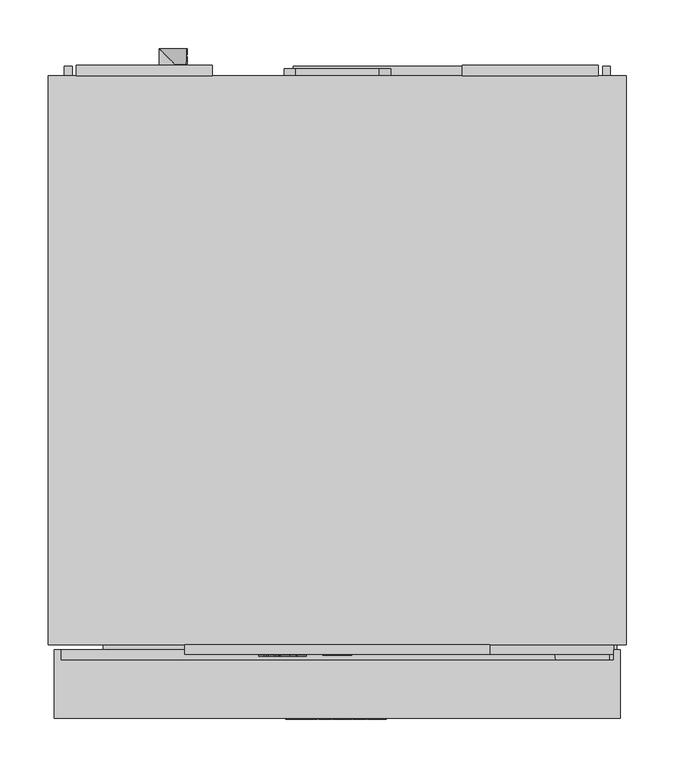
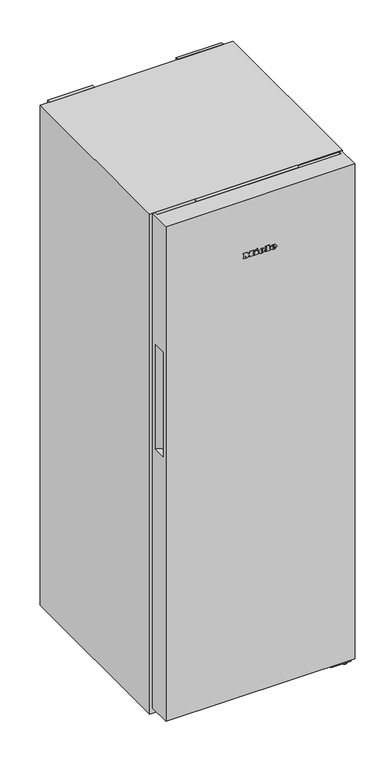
"""IFC4 building model written with IfcOpenShell, lengths in millimetres: proxy geometry, 12430260_EU1_FN4342D_WS : 37434244_EU1_12430260_FN4342D_WS."""

from ifc_helpers import new_model, si_unit, point, frame, frame_2d, origin, origin_with_axes, place, context, project, spatial, polyline, circle_curve, ellipse_curve, trimmed, segment, composite_curve, outline, extrude, faceted_brep, source, transform, mapped, element, save
from ifc_brep_helpers import plane_surface, cylinder_surface, revolved_surface, extruded_surface, advanced_brep


def specialty_equipment_ef7f8294(model_context):
    return source(origin(), model_context, "Body", "SolidModel", [
        extrude(outline(polyline([(15.0, -609.5), (-15.0, -609.5), (-15.0, -606.5), (15.0, -606.5), (15.0, -609.5)])), frame((0.0, 0.0, 1612.0), z_axis=(0.0, 0.0, 1.0), x_axis=(1.0, 0.0, 0.0)), (0.0, 0.0, 1.0), 28.0),
        extrude(outline(polyline([(1645.5, 105.0), (1645.5, -105.0), (1606.5, -105.0), (1606.5, 105.0), (1645.5, 105.0)]), holes=[polyline([(1640.0, -15.0), (1640.0, 15.0), (1612.0, 15.0), (1612.0, -15.0), (1640.0, -15.0)])]), frame((0.0, -608.5, 0.0), z_axis=(0.0, 1.0, 0.0), x_axis=(0.0, 0.0, 1.0)), (0.0, 0.0, 1.0), 2.0),
        faceted_brep([(157.5, -598.5, 1602.0), (157.5, -608.5, 1602.0), (-157.5, -608.5, 1602.0), (-157.5, -598.5, 1602.0), (157.5, -598.5, 1650.0), (-157.5, -598.5, 1650.0), (-157.5, -608.5, 1650.0), (157.5, -608.5, 1650.0), (-105.0, -608.5, 1645.5), (105.0, -608.5, 1645.5), (105.0, -608.5, 1606.5), (-105.0, -608.5, 1606.5), (105.0, -606.5, 1645.5), (-105.0, -606.5, 1645.5), (-105.0, -606.5, 1606.5), (105.0, -606.5, 1606.5)], [[[0, 1, 2, 3]], [[4, 5, 6, 7]], [[0, 3, 5, 4]], [[3, 2, 6, 5]], [[2, 1, 7, 6], [8, 9, 10, 11]], [[1, 0, 4, 7]], [[12, 13, 14, 15]], [[13, 12, 9, 8]], [[14, 13, 8, 11]], [[15, 14, 11, 10]], [[12, 15, 10, 9]]]),
        advanced_brep(
        [(39.0804776, -675.5, 1468.7956125), (39.0804776, -675.5, 1470.5126125), (50.4534776, -675.5, 1470.5126125), (30.6654776, -675.5, 1470.5126125), (35.3404776, -675.5, 1464.7666125), (50.1644776, -675.5, 1468.7956125), (45.0304776, -675.5, 1468.7956125), (40.9844776, -675.5, 1466.8916125), (39.0804776, -675.5, 1472.6886125), (39.0804776, -675.5, 1474.5416125), (41.9874776, -675.5, 1474.5416125), (41.9874776, -675.5, 1472.6886125), (39.0804776, -674.5, 1468.7956125), (40.9844776, -674.5, 1466.8916125), (45.0304776, -674.5, 1468.7956125), (50.1644776, -674.5, 1468.7956125), (35.3404776, -674.5, 1464.7666125), (30.6654776, -674.5, 1470.5126125), (50.4534776, -674.5, 1470.5126125), (39.0804776, -674.5, 1470.5126125), (39.0804776, -674.5, 1472.6886125), (41.9874776, -674.5, 1472.6886125), (41.9874776, -674.5, 1474.5416125), (39.0804776, -674.5, 1474.5416125)],
        [
            (0, 1),
            (1, 2),
            (2, 3, ellipse_curve(frame((40.5594776, -675.5, 1470.5126125), z_axis=(0.0, -1.0, 0.0), x_axis=(-1.0, 0.0, 0.0)), 9.894, 8.177)),
            (3, 4, circle_curve(frame((37.2445704, -675.5, 1471.0906125), z_axis=(0.0, -1.0, 0.0), x_axis=(0.0, 0.0, -1.0)), 6.6044337)),
            (4, 5, circle_curve(frame((40.361414, -675.5, 1475.5786125), z_axis=(0.0, -1.0, 0.0), x_axis=(0.0, 0.0, -1.0)), 11.9209541)),
            (5, 6),
            (6, 7, circle_curve(frame((41.8154776, -675.5, 1470.3766125), z_axis=(0.0, 1.0, 0.0), x_axis=(0.0, 0.0, -1.0)), 3.5827065)),
            (7, 0, circle_curve(frame((40.9844776, -675.5, 1468.7956125), z_axis=(0.0, 1.0, 0.0), x_axis=(0.0, 0.0, -1.0)), 1.904)),
            (8, 9),
            (9, 10, circle_curve(frame((40.5339776, -675.5, 1474.5416125), z_axis=(0.0, 1.0, 0.0), x_axis=(0.0, 0.0, -1.0)), 1.4535)),
            (10, 11),
            (11, 8),
            (12, 13, circle_curve(frame((40.9844776, -674.5, 1468.7956125), z_axis=(0.0, -1.0, 0.0), x_axis=(0.0, 0.0, -1.0)), 1.904)),
            (13, 14, circle_curve(frame((41.8154776, -674.5, 1470.3766125), z_axis=(0.0, -1.0, 0.0), x_axis=(0.0, 0.0, -1.0)), 3.5827065)),
            (14, 15),
            (15, 16, circle_curve(frame((40.361414, -674.5, 1475.5786125), z_axis=(0.0, 1.0, 0.0), x_axis=(0.0, 0.0, -1.0)), 11.9209541)),
            (16, 17, circle_curve(frame((37.2445704, -674.5, 1471.0906125), z_axis=(0.0, 1.0, 0.0), x_axis=(0.0, 0.0, -1.0)), 6.6044337)),
            (17, 18, ellipse_curve(frame((40.5594776, -674.5, 1470.5126125), z_axis=(0.0, 1.0, 0.0), x_axis=(-1.0, 0.0, 0.0)), 9.894, 8.177)),
            (18, 19),
            (19, 12),
            (20, 21),
            (21, 22),
            (22, 23, circle_curve(frame((40.5339776, -674.5, 1474.5416125), z_axis=(0.0, -1.0, 0.0), x_axis=(0.0, 0.0, -1.0)), 1.4535)),
            (23, 20),
            (0, 12),
            (19, 1),
            (18, 2),
            (5, 15),
            (14, 6),
            (17, 3),
            (13, 7),
            (16, 4),
            (8, 20),
            (23, 9),
            (22, 10),
            (21, 11),
        ],
        [
            plane_surface(frame((39.0804776, -675.5, 1470.5126125), z_axis=(0.0, -1.0, 0.0), x_axis=(0.0, 0.0, 1.0))),
            plane_surface(frame((39.0804776, -674.5, 1470.5126125), z_axis=(0.0, 1.0, 0.0), x_axis=(0.0, 0.0, -1.0))),
            plane_surface(frame((39.0804776, -675.5, 1468.7956125), z_axis=(1.0, 0.0, 0.0), x_axis=(0.0, 1.0, 0.0))),
            plane_surface(frame((39.0804776, -675.5, 1470.5126125), z_axis=(0.0, 0.0, -1.0), x_axis=(0.0, 1.0, 0.0))),
            plane_surface(frame((50.1644776, -675.5, 1468.7956125), z_axis=(0.0, 0.0, 1.0), x_axis=(0.0, 1.0, 0.0))),
            extruded_surface(trimmed(ellipse_curve(frame((40.5594776, -673.5, 1470.5126125), z_axis=(0.0, -1.0, 0.0), x_axis=(-1.0, 0.0, 0.0)), 9.894, 8.177), [point((50.4534776, -673.5, 1470.5126125))], [point((30.6654776, -673.5, 1470.5126125))], True, "CARTESIAN"), (0.0, -1.0, 0.0), 1.0),
            revolved_surface(polyline([(41.8154776, -674.5, 1466.7939059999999), (41.8154776, -675.5, 1466.7939059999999)]), (41.8154776, -674.5, 1470.3766125), (0.0, 1.0, 0.0)),
            revolved_surface(polyline([(40.9844776, -674.5, 1466.8916125), (40.9844776, -675.5, 1466.8916125)]), (40.9844776, -674.5, 1468.7956125), (0.0, 1.0, 0.0)),
            cylinder_surface(frame((37.2445704, -674.5, 1471.0906125), z_axis=(0.0, -1.0, 0.0), x_axis=(0.0, 0.0, -1.0)), 6.6044337),
            cylinder_surface(frame((40.361414, -674.5, 1475.5786125), z_axis=(0.0, -1.0, 0.0), x_axis=(0.0, 0.0, -1.0)), 11.9209541),
            plane_surface(frame((39.0804776, -675.5, 1472.6886125), z_axis=(1.0, 0.0, 0.0), x_axis=(0.0, 1.0, 0.0))),
            revolved_surface(polyline([(40.5339776, -674.5, 1473.0881124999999), (40.5339776, -675.5, 1473.0881124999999)]), (40.5339776, -674.5, 1474.5416125), (0.0, 1.0, 0.0)),
            plane_surface(frame((41.9874776, -675.5, 1474.5416125), z_axis=(-1.0, 0.0, 0.0), x_axis=(0.0, 1.0, 0.0))),
            plane_surface(frame((41.9874776, -675.5, 1472.6886125), z_axis=(0.0, 0.0, 1.0), x_axis=(0.0, 1.0, 0.0))),
        ],
        [
            (0, [[1, 2, 3, 4, 5, 6, 7, 8], [9, 10, 11, 12]]),
            (1, [[13, 14, 15, 16, 17, 18, 19, 20], [21, 22, 23, 24]]),
            (2, [[-1, 25, -20, 26]]),
            (3, [[-2, -26, -19, 27]]),
            (4, [[-6, 28, -15, 29]]),
            (5, [[-3, -27, -18, 30]]),
            (6, [[-7, -29, -14, 31]]),
            (7, [[-8, -31, -13, -25]]),
            (8, [[-4, -30, -17, 32]]),
            (9, [[-5, -32, -16, -28]]),
            (10, [[-9, 33, -24, 34]]),
            (11, [[-10, -34, -23, 35]]),
            (12, [[-11, -35, -22, 36]]),
            (13, [[-12, -36, -21, -33]]),
        ],
    ),
        advanced_brep(
        [(3.6014776, -675.5, 1468.7956125), (3.6014776, -675.5, 1470.5126125), (14.9744776, -675.5, 1470.5126125), (-4.8135224, -675.5, 1470.5126125), (-0.1385224, -675.5, 1464.7666125), (14.6854776, -675.5, 1468.7956125), (9.5514776, -675.5, 1468.7956125), (5.5054776, -675.5, 1466.8916125), (3.6014776, -675.5, 1472.6886125), (3.6014776, -675.5, 1474.5416125), (6.5084776, -675.5, 1474.5416125), (6.5084776, -675.5, 1472.6886125), (3.6014776, -674.5, 1468.7956125), (5.5054776, -674.5, 1466.8916125), (9.5514776, -674.5, 1468.7956125), (14.6854776, -674.5, 1468.7956125), (-0.1385224, -674.5, 1464.7666125), (-4.8135224, -674.5, 1470.5126125), (14.9744776, -674.5, 1470.5126125), (3.6014776, -674.5, 1470.5126125), (3.6014776, -674.5, 1472.6886125), (6.5084776, -674.5, 1472.6886125), (6.5084776, -674.5, 1474.5416125), (3.6014776, -674.5, 1474.5416125)],
        [
            (0, 1),
            (1, 2),
            (2, 3, ellipse_curve(frame((5.0804776, -675.5, 1470.5126125), z_axis=(0.0, -1.0, 0.0), x_axis=(-1.0, 0.0, 0.0)), 9.894, 8.177)),
            (3, 4, circle_curve(frame((1.7655704, -675.5, 1471.0906125), z_axis=(0.0, -1.0, 0.0), x_axis=(0.0, 0.0, -1.0)), 6.6044337)),
            (4, 5, circle_curve(frame((4.882414, -675.5, 1475.5786125), z_axis=(0.0, -1.0, 0.0), x_axis=(0.0, 0.0, -1.0)), 11.9209541)),
            (5, 6),
            (6, 7, circle_curve(frame((6.3364776, -675.5, 1470.3766125), z_axis=(0.0, 1.0, 0.0), x_axis=(0.0, 0.0, -1.0)), 3.5827065)),
            (7, 0, circle_curve(frame((5.5054776, -675.5, 1468.7956125), z_axis=(0.0, 1.0, 0.0), x_axis=(0.0, 0.0, -1.0)), 1.904)),
            (8, 9),
            (9, 10, circle_curve(frame((5.0549776, -675.5, 1474.5416125), z_axis=(0.0, 1.0, 0.0), x_axis=(0.0, 0.0, -1.0)), 1.4535)),
            (10, 11),
            (11, 8),
            (12, 13, circle_curve(frame((5.5054776, -674.5, 1468.7956125), z_axis=(0.0, -1.0, 0.0), x_axis=(0.0, 0.0, -1.0)), 1.904)),
            (13, 14, circle_curve(frame((6.3364776, -674.5, 1470.3766125), z_axis=(0.0, -1.0, 0.0), x_axis=(0.0, 0.0, -1.0)), 3.5827065)),
            (14, 15),
            (15, 16, circle_curve(frame((4.882414, -674.5, 1475.5786125), z_axis=(0.0, 1.0, 0.0), x_axis=(0.0, 0.0, -1.0)), 11.9209541)),
            (16, 17, circle_curve(frame((1.7655704, -674.5, 1471.0906125), z_axis=(0.0, 1.0, 0.0), x_axis=(0.0, 0.0, -1.0)), 6.6044337)),
            (17, 18, ellipse_curve(frame((5.0804776, -674.5, 1470.5126125), z_axis=(0.0, 1.0, 0.0), x_axis=(-1.0, 0.0, 0.0)), 9.894, 8.177)),
            (18, 19),
            (19, 12),
            (20, 21),
            (21, 22),
            (22, 23, circle_curve(frame((5.0549776, -674.5, 1474.5416125), z_axis=(0.0, -1.0, 0.0), x_axis=(0.0, 0.0, -1.0)), 1.4535)),
            (23, 20),
            (0, 12),
            (19, 1),
            (18, 2),
            (5, 15),
            (14, 6),
            (17, 3),
            (13, 7),
            (16, 4),
            (8, 20),
            (23, 9),
            (22, 10),
            (21, 11),
        ],
        [
            plane_surface(frame((3.6014776, -675.5, 1470.5126125), z_axis=(0.0, -1.0, 0.0), x_axis=(0.0, 0.0, 1.0))),
            plane_surface(frame((3.6014776, -674.5, 1470.5126125), z_axis=(0.0, 1.0, 0.0), x_axis=(0.0, 0.0, -1.0))),
            plane_surface(frame((3.6014776, -675.5, 1468.7956125), z_axis=(1.0, 0.0, 0.0), x_axis=(0.0, 1.0, 0.0))),
            plane_surface(frame((3.6014776, -675.5, 1470.5126125), z_axis=(0.0, 0.0, -1.0), x_axis=(0.0, 1.0, 0.0))),
            plane_surface(frame((14.6854776, -675.5, 1468.7956125), z_axis=(0.0, 0.0, 1.0), x_axis=(0.0, 1.0, 0.0))),
            extruded_surface(trimmed(ellipse_curve(frame((5.0804776, -673.5, 1470.5126125), z_axis=(0.0, -1.0, 0.0), x_axis=(-1.0, 0.0, 0.0)), 9.894, 8.177), [point((14.9744776, -673.5, 1470.5126125))], [point((-4.8135224, -673.5, 1470.5126125))], True, "CARTESIAN"), (0.0, -1.0, 0.0), 1.0),
            revolved_surface(polyline([(6.3364776, -674.5, 1466.7939059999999), (6.3364776, -675.5, 1466.7939059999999)]), (6.3364776, -674.5, 1470.3766125), (0.0, 1.0, 0.0)),
            revolved_surface(polyline([(5.5054776, -674.5, 1466.8916125), (5.5054776, -675.5, 1466.8916125)]), (5.5054776, -674.5, 1468.7956125), (0.0, 1.0, 0.0)),
            cylinder_surface(frame((1.7655704, -674.5, 1471.0906125), z_axis=(0.0, -1.0, 0.0), x_axis=(0.0, 0.0, -1.0)), 6.6044337),
            cylinder_surface(frame((4.882414, -674.5, 1475.5786125), z_axis=(0.0, -1.0, 0.0), x_axis=(0.0, 0.0, -1.0)), 11.9209541),
            plane_surface(frame((3.6014776, -675.5, 1472.6886125), z_axis=(1.0, 0.0, 0.0), x_axis=(0.0, 1.0, 0.0))),
            revolved_surface(polyline([(5.0549776, -674.5, 1473.0881124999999), (5.0549776, -675.5, 1473.0881124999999)]), (5.0549776, -674.5, 1474.5416125), (0.0, 1.0, 0.0)),
            plane_surface(frame((6.5084776, -675.5, 1474.5416125), z_axis=(-1.0, 0.0, 0.0), x_axis=(0.0, 1.0, 0.0))),
            plane_surface(frame((6.5084776, -675.5, 1472.6886125), z_axis=(0.0, 0.0, 1.0), x_axis=(0.0, 1.0, 0.0))),
        ],
        [
            (0, [[1, 2, 3, 4, 5, 6, 7, 8], [9, 10, 11, 12]]),
            (1, [[13, 14, 15, 16, 17, 18, 19, 20], [21, 22, 23, 24]]),
            (2, [[-1, 25, -20, 26]]),
            (3, [[-2, -26, -19, 27]]),
            (4, [[-6, 28, -15, 29]]),
            (5, [[-3, -27, -18, 30]]),
            (6, [[-7, -29, -14, 31]]),
            (7, [[-8, -31, -13, -25]]),
            (8, [[-4, -30, -17, 32]]),
            (9, [[-5, -32, -16, -28]]),
            (10, [[-9, 33, -24, 34]]),
            (11, [[-10, -34, -23, 35]]),
            (12, [[-11, -35, -22, 36]]),
            (13, [[-12, -36, -21, -33]]),
        ],
    ),
        extrude(outline(polyline([(1480.7636125, -14.9795224), (1478.0096125, -13.6875224), (1480.6956125, -7.9245224), (1483.4496125, -9.1995224), (1480.7636125, -14.9795224)])), frame((0.0, -675.5, 0.0), z_axis=(0.0, 1.0, 0.0), x_axis=(0.0, 0.0, 1.0)), (0.0, 0.0, 1.0), 1.0),
        extrude(outline(polyline([(1477.6356125, -19.1785224), (1474.5926125, -19.1785224), (1474.5926125, -17.1555224), (1467.6226125, -17.1555224), (1467.6226125, -19.1785224), (1464.7666125, -19.1785224), (1464.7666125, -5.7655224), (1467.6226125, -5.7655224), (1467.6226125, -7.7375224), (1477.6356125, -7.7375224), (1477.6356125, -19.1785224)])), frame((0.0, -675.5, 0.0), z_axis=(0.0, 1.0, 0.0), x_axis=(0.0, 0.0, 1.0)), (0.0, 0.0, 1.0), 1.0),
        extrude(outline(polyline([(1478.9956125, 15.9264776), (1478.9956125, 17.9664776), (1467.6226125, 17.9664776), (1467.6226125, 15.9264776), (1464.7666125, 15.9264776), (1464.7666125, 29.7134776), (1467.6226125, 29.7134776), (1467.6226125, 27.6224776), (1481.7666125, 27.6224776), (1481.7666125, 15.9264776), (1478.9956125, 15.9264776)])), frame((0.0, -675.5, 0.0), z_axis=(0.0, 1.0, 0.0), x_axis=(0.0, 0.0, 1.0)), (0.0, 0.0, 1.0), 1.0),
        extrude(outline(polyline([(1478.9956125, -53.0595224), (1478.9956125, -51.0025224), (1467.6226125, -51.0025224), (1467.6226125, -53.0595224), (1464.7666125, -53.0595224), (1464.7666125, -45.5795224), (1467.6226125, -45.5795224), (1467.6226125, -47.6195224), (1474.7967372, -47.6195224), (1464.7666125, -40.0205224), (1475.2068348, -32.3875224), (1467.6226125, -32.3875224), (1467.6226125, -34.4785224), (1464.7666125, -34.4785224), (1464.7666125, -20.9125224), (1467.6226125, -20.9125224), (1467.6226125, -23.0715224), (1478.9956125, -23.0715224), (1478.9956125, -20.9125224), (1481.7666125, -20.9125224), (1481.7666125, -31.2655224), (1475.3916125, -36.2295224), (1481.7666125, -41.2105224), (1481.7666125, -53.0595224), (1478.9956125, -53.0595224)])), frame((0.0, -675.5, 0.0), z_axis=(0.0, 1.0, 0.0), x_axis=(0.0, 0.0, 1.0)), (0.0, 0.0, 1.0), 1.0),
        advanced_brep(
        [(-37.64, -610.5, 1628.896), (-37.64, -610.5, 1629.704), (-32.288, -610.5, 1629.704), (-41.6, -610.5, 1629.704), (-39.4, -610.5, 1627.0), (-32.424, -610.5, 1628.896), (-34.84, -610.5, 1628.896), (-36.744, -610.5, 1628.0), (-37.64, -610.5, 1630.728), (-37.64, -610.5, 1631.6), (-36.272, -610.5, 1631.6), (-36.272, -610.5, 1630.728), (-37.64, -609.5, 1628.896), (-36.744, -609.5, 1628.0), (-34.84, -609.5, 1628.896), (-32.424, -609.5, 1628.896), (-39.4, -609.5, 1627.0), (-41.6, -609.5, 1629.704), (-32.288, -609.5, 1629.704), (-37.64, -609.5, 1629.704), (-37.64, -609.5, 1630.728), (-36.272, -609.5, 1630.728), (-36.272, -609.5, 1631.6), (-37.64, -609.5, 1631.6)],
        [
            (0, 1),
            (1, 2),
            (2, 3, ellipse_curve(frame((-36.944, -610.5, 1629.704), z_axis=(0.0, -1.0, 0.0), x_axis=(-1.0, 0.0, 0.0)), 4.656, 3.848)),
            (3, 4, circle_curve(frame((-38.5039564, -610.5, 1629.976), z_axis=(0.0, -1.0, 0.0), x_axis=(0.0, 0.0, -1.0)), 3.1079688)),
            (4, 5, circle_curve(frame((-37.0372064, -610.5, 1632.088), z_axis=(0.0, -1.0, 0.0), x_axis=(0.0, 0.0, -1.0)), 5.6098607)),
            (5, 6),
            (6, 7, circle_curve(frame((-36.3529412, -610.5, 1629.64), z_axis=(0.0, 1.0, 0.0), x_axis=(0.0, 0.0, -1.0)), 1.6859795)),
            (7, 0, circle_curve(frame((-36.744, -610.5, 1628.896), z_axis=(0.0, 1.0, 0.0), x_axis=(0.0, 0.0, -1.0)), 0.896)),
            (8, 9),
            (9, 10, circle_curve(frame((-36.956, -610.5, 1631.6), z_axis=(0.0, 1.0, 0.0), x_axis=(0.0, 0.0, -1.0)), 0.684)),
            (10, 11),
            (11, 8),
            (12, 13, circle_curve(frame((-36.744, -609.5, 1628.896), z_axis=(0.0, -1.0, 0.0), x_axis=(0.0, 0.0, -1.0)), 0.896)),
            (13, 14, circle_curve(frame((-36.3529412, -609.5, 1629.64), z_axis=(0.0, -1.0, 0.0), x_axis=(0.0, 0.0, -1.0)), 1.6859795)),
            (14, 15),
            (15, 16, circle_curve(frame((-37.0372064, -609.5, 1632.088), z_axis=(0.0, 1.0, 0.0), x_axis=(0.0, 0.0, -1.0)), 5.6098607)),
            (16, 17, circle_curve(frame((-38.5039564, -609.5, 1629.976), z_axis=(0.0, 1.0, 0.0), x_axis=(0.0, 0.0, -1.0)), 3.1079688)),
            (17, 18, ellipse_curve(frame((-36.944, -609.5, 1629.704), z_axis=(0.0, 1.0, 0.0), x_axis=(-1.0, 0.0, 0.0)), 4.656, 3.848)),
            (18, 19),
            (19, 12),
            (20, 21),
            (21, 22),
            (22, 23, circle_curve(frame((-36.956, -609.5, 1631.6), z_axis=(0.0, -1.0, 0.0), x_axis=(0.0, 0.0, -1.0)), 0.684)),
            (23, 20),
            (0, 12),
            (19, 1),
            (18, 2),
            (5, 15),
            (14, 6),
            (17, 3),
            (13, 7),
            (16, 4),
            (8, 20),
            (23, 9),
            (22, 10),
            (21, 11),
        ],
        [
            plane_surface(frame((-37.64, -610.5, 1629.704), z_axis=(0.0, -1.0, 0.0), x_axis=(0.0, 0.0, 1.0))),
            plane_surface(frame((-37.64, -609.5, 1629.704), z_axis=(0.0, 1.0, 0.0), x_axis=(0.0, 0.0, -1.0))),
            plane_surface(frame((-37.64, -610.5, 1628.896), z_axis=(1.0, 0.0, 0.0), x_axis=(0.0, 1.0, 0.0))),
            plane_surface(frame((-37.64, -610.5, 1629.704), z_axis=(0.0, 0.0, -1.0), x_axis=(0.0, 1.0, 0.0))),
            plane_surface(frame((-32.424, -610.5, 1628.896), z_axis=(0.0, 0.0, 1.0), x_axis=(0.0, 1.0, 0.0))),
            extruded_surface(trimmed(ellipse_curve(frame((-36.944, -608.5, 1629.704), z_axis=(0.0, -1.0, 0.0), x_axis=(-1.0, 0.0, 0.0)), 4.656, 3.848), [point((-32.288, -608.5, 1629.704))], [point((-41.6, -608.5, 1629.704))], True, "CARTESIAN"), (0.0, -1.0, 0.0), 1.0),
            revolved_surface(polyline([(-36.3529412, -609.5, 1627.9540205), (-36.3529412, -610.5, 1627.9540205)]), (-36.3529412, -609.5, 1629.64), (0.0, 1.0, 0.0)),
            revolved_surface(polyline([(-36.744, -609.5, 1628.0), (-36.744, -610.5, 1628.0)]), (-36.744, -609.5, 1628.896), (0.0, 1.0, 0.0)),
            cylinder_surface(frame((-38.5039564, -609.5, 1629.976), z_axis=(0.0, -1.0, 0.0), x_axis=(0.0, 0.0, -1.0)), 3.1079688),
            cylinder_surface(frame((-37.0372064, -609.5, 1632.088), z_axis=(0.0, -1.0, 0.0), x_axis=(0.0, 0.0, -1.0)), 5.6098607),
            plane_surface(frame((-37.64, -610.5, 1630.728), z_axis=(1.0, 0.0, 0.0), x_axis=(0.0, 1.0, 0.0))),
            revolved_surface(polyline([(-36.956, -609.5, 1630.916), (-36.956, -610.5, 1630.916)]), (-36.956, -609.5, 1631.6), (0.0, 1.0, 0.0)),
            plane_surface(frame((-36.272, -610.5, 1631.6), z_axis=(-1.0, 0.0, 0.0), x_axis=(0.0, 1.0, 0.0))),
            plane_surface(frame((-36.272, -610.5, 1630.728), z_axis=(0.0, 0.0, 1.0), x_axis=(0.0, 1.0, 0.0))),
        ],
        [
            (0, [[1, 2, 3, 4, 5, 6, 7, 8], [9, 10, 11, 12]]),
            (1, [[13, 14, 15, 16, 17, 18, 19, 20], [21, 22, 23, 24]]),
            (2, [[-1, 25, -20, 26]]),
            (3, [[-2, -26, -19, 27]]),
            (4, [[-6, 28, -15, 29]]),
            (5, [[-3, -27, -18, 30]]),
            (6, [[-7, -29, -14, 31]]),
            (7, [[-8, -31, -13, -25]]),
            (8, [[-4, -30, -17, 32]]),
            (9, [[-5, -32, -16, -28]]),
            (10, [[-9, 33, -24, 34]]),
            (11, [[-10, -34, -23, 35]]),
            (12, [[-11, -35, -22, 36]]),
            (13, [[-12, -36, -21, -33]]),
        ],
    ),
        advanced_brep(
        [(-54.336, -610.5, 1628.896), (-54.336, -610.5, 1629.704), (-48.984, -610.5, 1629.704), (-58.296, -610.5, 1629.704), (-56.096, -610.5, 1627.0), (-49.12, -610.5, 1628.896), (-51.536, -610.5, 1628.896), (-53.44, -610.5, 1628.0), (-54.336, -610.5, 1630.728), (-54.336, -610.5, 1631.6), (-52.968, -610.5, 1631.6), (-52.968, -610.5, 1630.728), (-54.336, -609.5, 1628.896), (-53.44, -609.5, 1628.0), (-51.536, -609.5, 1628.896), (-49.12, -609.5, 1628.896), (-56.096, -609.5, 1627.0), (-58.296, -609.5, 1629.704), (-48.984, -609.5, 1629.704), (-54.336, -609.5, 1629.704), (-54.336, -609.5, 1630.728), (-52.968, -609.5, 1630.728), (-52.968, -609.5, 1631.6), (-54.336, -609.5, 1631.6)],
        [
            (0, 1),
            (1, 2),
            (2, 3, ellipse_curve(frame((-53.64, -610.5, 1629.704), z_axis=(0.0, -1.0, 0.0), x_axis=(-1.0, 0.0, 0.0)), 4.656, 3.848)),
            (3, 4, circle_curve(frame((-55.1999564, -610.5, 1629.976), z_axis=(0.0, -1.0, 0.0), x_axis=(0.0, 0.0, -1.0)), 3.1079688)),
            (4, 5, circle_curve(frame((-53.7332064, -610.5, 1632.088), z_axis=(0.0, -1.0, 0.0), x_axis=(0.0, 0.0, -1.0)), 5.6098607)),
            (5, 6),
            (6, 7, circle_curve(frame((-53.0489412, -610.5, 1629.64), z_axis=(0.0, 1.0, 0.0), x_axis=(0.0, 0.0, -1.0)), 1.6859795)),
            (7, 0, circle_curve(frame((-53.44, -610.5, 1628.896), z_axis=(0.0, 1.0, 0.0), x_axis=(0.0, 0.0, -1.0)), 0.896)),
            (8, 9),
            (9, 10, circle_curve(frame((-53.652, -610.5, 1631.6), z_axis=(0.0, 1.0, 0.0), x_axis=(0.0, 0.0, -1.0)), 0.684)),
            (10, 11),
            (11, 8),
            (12, 13, circle_curve(frame((-53.44, -609.5, 1628.896), z_axis=(0.0, -1.0, 0.0), x_axis=(0.0, 0.0, -1.0)), 0.896)),
            (13, 14, circle_curve(frame((-53.0489412, -609.5, 1629.64), z_axis=(0.0, -1.0, 0.0), x_axis=(0.0, 0.0, -1.0)), 1.6859795)),
            (14, 15),
            (15, 16, circle_curve(frame((-53.7332064, -609.5, 1632.088), z_axis=(0.0, 1.0, 0.0), x_axis=(0.0, 0.0, -1.0)), 5.6098607)),
            (16, 17, circle_curve(frame((-55.1999564, -609.5, 1629.976), z_axis=(0.0, 1.0, 0.0), x_axis=(0.0, 0.0, -1.0)), 3.1079688)),
            (17, 18, ellipse_curve(frame((-53.64, -609.5, 1629.704), z_axis=(0.0, 1.0, 0.0), x_axis=(-1.0, 0.0, 0.0)), 4.656, 3.848)),
            (18, 19),
            (19, 12),
            (20, 21),
            (21, 22),
            (22, 23, circle_curve(frame((-53.652, -609.5, 1631.6), z_axis=(0.0, -1.0, 0.0), x_axis=(0.0, 0.0, -1.0)), 0.684)),
            (23, 20),
            (0, 12),
            (19, 1),
            (18, 2),
            (5, 15),
            (14, 6),
            (17, 3),
            (13, 7),
            (16, 4),
            (8, 20),
            (23, 9),
            (22, 10),
            (21, 11),
        ],
        [
            plane_surface(frame((-54.336, -610.5, 1629.704), z_axis=(0.0, -1.0, 0.0), x_axis=(0.0, 0.0, 1.0))),
            plane_surface(frame((-54.336, -609.5, 1629.704), z_axis=(0.0, 1.0, 0.0), x_axis=(0.0, 0.0, -1.0))),
            plane_surface(frame((-54.336, -610.5, 1628.896), z_axis=(1.0, 0.0, 0.0), x_axis=(0.0, 1.0, 0.0))),
            plane_surface(frame((-54.336, -610.5, 1629.704), z_axis=(0.0, 0.0, -1.0), x_axis=(0.0, 1.0, 0.0))),
            plane_surface(frame((-49.12, -610.5, 1628.896), z_axis=(0.0, 0.0, 1.0), x_axis=(0.0, 1.0, 0.0))),
            extruded_surface(trimmed(ellipse_curve(frame((-53.64, -608.5, 1629.704), z_axis=(0.0, -1.0, 0.0), x_axis=(-1.0, 0.0, 0.0)), 4.656, 3.848), [point((-48.984, -608.5, 1629.704))], [point((-58.296, -608.5, 1629.704))], True, "CARTESIAN"), (0.0, -1.0, 0.0), 1.0),
            revolved_surface(polyline([(-53.0489412, -609.5, 1627.9540205), (-53.0489412, -610.5, 1627.9540205)]), (-53.0489412, -609.5, 1629.64), (0.0, 1.0, 0.0)),
            revolved_surface(polyline([(-53.44, -609.5, 1628.0), (-53.44, -610.5, 1628.0)]), (-53.44, -609.5, 1628.896), (0.0, 1.0, 0.0)),
            cylinder_surface(frame((-55.1999564, -609.5, 1629.976), z_axis=(0.0, -1.0, 0.0), x_axis=(0.0, 0.0, -1.0)), 3.1079688),
            cylinder_surface(frame((-53.7332064, -609.5, 1632.088), z_axis=(0.0, -1.0, 0.0), x_axis=(0.0, 0.0, -1.0)), 5.6098607),
            plane_surface(frame((-54.336, -610.5, 1630.728), z_axis=(1.0, 0.0, 0.0), x_axis=(0.0, 1.0, 0.0))),
            revolved_surface(polyline([(-53.652, -609.5, 1630.916), (-53.652, -610.5, 1630.916)]), (-53.652, -609.5, 1631.6), (0.0, 1.0, 0.0)),
            plane_surface(frame((-52.968, -610.5, 1631.6), z_axis=(-1.0, 0.0, 0.0), x_axis=(0.0, 1.0, 0.0))),
            plane_surface(frame((-52.968, -610.5, 1630.728), z_axis=(0.0, 0.0, 1.0), x_axis=(0.0, 1.0, 0.0))),
        ],
        [
            (0, [[1, 2, 3, 4, 5, 6, 7, 8], [9, 10, 11, 12]]),
            (1, [[13, 14, 15, 16, 17, 18, 19, 20], [21, 22, 23, 24]]),
            (2, [[-1, 25, -20, 26]]),
            (3, [[-2, -26, -19, 27]]),
            (4, [[-6, 28, -15, 29]]),
            (5, [[-3, -27, -18, 30]]),
            (6, [[-7, -29, -14, 31]]),
            (7, [[-8, -31, -13, -25]]),
            (8, [[-4, -30, -17, 32]]),
            (9, [[-5, -32, -16, -28]]),
            (10, [[-9, 33, -24, 34]]),
            (11, [[-10, -34, -23, 35]]),
            (12, [[-11, -35, -22, 36]]),
            (13, [[-12, -36, -21, -33]]),
        ],
    ),
        extrude(outline(polyline([(1634.528, -63.08), (1633.232, -62.472), (1634.496, -59.76), (1635.792, -60.36), (1634.528, -63.08)])), frame((0.0, -610.5, 0.0), z_axis=(0.0, 1.0, 0.0), x_axis=(0.0, 0.0, 1.0)), (0.0, 0.0, 1.0), 1.0),
        extrude(outline(polyline([(1633.056, -65.056), (1631.624, -65.056), (1631.624, -64.104), (1628.344, -64.104), (1628.344, -65.056), (1627.0, -65.056), (1627.0, -58.744), (1628.344, -58.744), (1628.344, -59.672), (1633.056, -59.672), (1633.056, -65.056)])), frame((0.0, -610.5, 0.0), z_axis=(0.0, 1.0, 0.0), x_axis=(0.0, 0.0, 1.0)), (0.0, 0.0, 1.0), 1.0),
        extrude(outline(polyline([(1633.696, -48.536), (1633.696, -47.576), (1628.344, -47.576), (1628.344, -48.536), (1627.0, -48.536), (1627.0, -42.048), (1628.344, -42.048), (1628.344, -43.032), (1635.0, -43.032), (1635.0, -48.536), (1633.696, -48.536)])), frame((0.0, -610.5, 0.0), z_axis=(0.0, 1.0, 0.0), x_axis=(0.0, 0.0, 1.0)), (0.0, 0.0, 1.0), 1.0),
        extrude(outline(polyline([(1633.696, -81.0), (1633.696, -80.032), (1628.344, -80.032), (1628.344, -81.0), (1627.0, -81.0), (1627.0, -77.48), (1628.344, -77.48), (1628.344, -78.44), (1631.7471247, -78.44), (1627.0, -74.864), (1631.8152223, -71.272), (1628.344, -71.272), (1628.344, -72.256), (1627.0, -72.256), (1627.0, -65.872), (1628.344, -65.872), (1628.344, -66.888), (1633.696, -66.888), (1633.696, -65.872), (1635.0, -65.872), (1635.0, -70.744), (1632.0, -73.08), (1635.0, -75.424), (1635.0, -81.0), (1633.696, -81.0)])), frame((0.0, -610.5, 0.0), z_axis=(0.0, 1.0, 0.0), x_axis=(0.0, 0.0, 1.0)), (0.0, 0.0, 1.0), 1.0),
        extrude(outline(polyline([(-42.8527823, 0.0), (-48.1304417, 3.2708192), (-29.8908031, 3.2708192), (-34.9274229, 0.0), (-42.8527823, 0.0)])), frame((238.5469678, 0.0, 0.0), z_axis=(1.0, 0.0, 0.0), x_axis=(0.0, 1.0, 0.0)), (0.0, 0.0, 1.0), 15.1632647),
        extrude(outline(polyline([(-42.8527823, 0.0), (-48.1304417, 3.2708192), (-29.8908031, 3.2708192), (-34.9274229, 0.0), (-42.8527823, 0.0)])), frame((-253.7102325, 0.0, 0.0), z_axis=(1.0, 0.0, 0.0), x_axis=(0.0, 1.0, 0.0)), (0.0, 0.0, 1.0), 15.1632647),
        extrude(outline(polyline([(2.1227397, 65.0), (2.1227397, 75.045631), (9.343037, 75.045631), (9.343037, 73.7899271), (3.3784436, 73.7899271), (3.3784436, 70.8076304), (9.029111, 70.8076304), (9.029111, 69.5519266), (3.3784436, 69.5519266), (3.3784436, 66.2557039), (9.5, 66.2557039), (9.5, 65.0), (2.1227397, 65.0)])), frame((-156.0615355, 0.0, 0.0), z_axis=(1.0, 0.0, 0.0), x_axis=(0.0, 1.0, 0.0)), (0.0, 0.0, 1.0), 1.0),
        extrude(outline(polyline([(11.3835558, 65.0), (11.3835558, 75.045631), (12.6392597, 75.045631), (12.6392597, 66.2557039), (17.6620752, 66.2557039), (17.6620752, 65.0), (11.3835558, 65.0)])), frame((-156.0615355, 0.0, 0.0), z_axis=(1.0, 0.0, 0.0), x_axis=(0.0, 1.0, 0.0)), (0.0, 0.0, 1.0), 1.0),
        advanced_brep(
        [(-168.0615355, -10.5, 70.0), (-184.0615355, -10.5, 70.0), (-168.0615355, 1.5, 70.0), (-184.0615355, 17.5, 70.0), (-156.0615355, 1.5, 70.0), (-156.0615355, 17.5, 70.0)],
        [
            (0, 1, circle_curve(frame((-176.0615355, -10.5, 70.0), z_axis=(0.0, -1.0, 0.0), x_axis=(-1.0, 0.0, 0.0)), 8.0)),
            (1, 0, circle_curve(frame((-176.0615355, -10.5, 70.0), z_axis=(0.0, -1.0, 0.0), x_axis=(-1.0, 0.0, 0.0)), 8.0)),
            (0, 2),
            (2, 3, ellipse_curve(frame((-176.0615355, 9.5, 70.0), z_axis=(-0.7071067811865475, -0.7071067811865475, 0.0), x_axis=(0.7071067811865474, -0.7071067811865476, 0.0)), 11.3137085, 8.0)),
            (3, 1),
            (3, 2, ellipse_curve(frame((-176.0615355, 9.5, 70.0), z_axis=(-0.7071067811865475, -0.7071067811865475, 0.0), x_axis=(0.7071067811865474, -0.7071067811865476, 0.0)), 11.3137085, 8.0)),
            (4, 5, circle_curve(frame((-156.0615355, 9.5, 70.0), z_axis=(1.0, 0.0, 0.0), x_axis=(0.0, 1.0, 0.0)), 8.0)),
            (5, 4, circle_curve(frame((-156.0615355, 9.5, 70.0), z_axis=(1.0, 0.0, 0.0), x_axis=(0.0, 1.0, 0.0)), 8.0)),
            (2, 4),
            (5, 3),
        ],
        [
            plane_surface(frame((-176.0615355, -10.5, 0.0), z_axis=(0.0, -1.0, 0.0), x_axis=(0.0, 0.0, 1.0))),
            cylinder_surface(frame((-176.0615355, -10.5, 70.0), z_axis=(0.0, -1.0, 0.0), x_axis=(-1.0, 0.0, 0.0)), 8.0),
            plane_surface(frame((-156.0615355, 9.5, 0.0), z_axis=(1.0, 0.0, 0.0), x_axis=(0.0, 0.0, 1.0))),
            cylinder_surface(frame((-176.0615355, 9.5, 70.0), z_axis=(-1.0, 0.0, 0.0), x_axis=(0.0, 1.0, 0.0)), 8.0),
        ],
        [
            (0, [[1, 2]]),
            (1, [[-1, 3, 4, 5]]),
            (1, [[-2, -5, 6, -3]]),
            (2, [[7, 8]]),
            (3, [[-4, 9, -8, 10]]),
            (3, [[-6, -10, -7, -9]]),
        ],
    ),
        extrude(outline(polyline([(-118.9841834, 15.0), (-62.9841834, 15.0), (-75.5706779, 0.0), (-106.3976889, 0.0), (-118.9841834, 15.0)])), frame((-288.5, 0.0, 0.0), z_axis=(1.0, 0.0, 0.0), x_axis=(0.0, 1.0, 0.0)), (0.0, 0.0, 1.0), 16.0),
        extrude(outline(polyline([(-118.9841834, 15.0), (-62.9841834, 15.0), (-75.5706779, 0.0), (-106.3976889, 0.0), (-118.9841834, 15.0)])), frame((272.5, 0.0, 0.0), z_axis=(1.0, 0.0, 0.0), x_axis=(0.0, 1.0, 0.0)), (0.0, 0.0, 1.0), 16.0),
        extrude(outline(polyline([(281.8051758, -10.5), (274.2947998, -10.5), (274.2947998, -0.5), (281.8051758, -0.5), (281.8051758, -10.5)])), frame((0.0, 0.0, 239.4947815), z_axis=(0.0, 0.0, 1.0), x_axis=(1.0, 0.0, 0.0)), (0.0, 0.0, 1.0), 18.4103699),
        extrude(outline(polyline([(-274.0827332, -10.5), (-282.1051331, -10.5), (-282.1051331, -0.5), (-274.0827332, -0.5), (-274.0827332, -10.5)])), frame((0.0, 0.0, 239.4947815), z_axis=(0.0, 0.0, 1.0), x_axis=(1.0, 0.0, 0.0)), (0.0, 0.0, 1.0), 18.3224792),
        extrude(outline(polyline([(190.0, 177.5), (133.0, 177.5), (133.0, -45.5), (64.0, -45.5), (64.0, 258.5), (190.0, 258.5), (190.0, 177.5)])), frame((0.0, -10.5, 0.0), z_axis=(0.0, 1.0, 0.0), x_axis=(0.0, 0.0, 1.0)), (0.0, 0.0, 1.0), 10.0),
        extrude(outline(polyline([(269.5372046, -10.5), (129.0, -10.5), (129.0, 0.0), (269.5372046, 0.0), (269.5372046, -10.5)])), frame((0.0, 0.0, 1626.0), z_axis=(0.0, 0.0, 1.0), x_axis=(1.0, 0.0, 0.0)), (0.0, 0.0, 1.0), 24.0),
        extrude(outline(polyline([(-129.0, -10.5), (-269.5372046, -10.5), (-269.5372046, 0.0), (-129.0, 0.0), (-129.0, -10.5)])), frame((0.0, 0.0, 1626.0), z_axis=(0.0, 0.0, 1.0), x_axis=(1.0, 0.0, 0.0)), (0.0, 0.0, 1.0), 24.0),
        extrude(outline(polyline([(64.0, -159.5), (-64.0, -159.5), (-64.0, -71.5), (64.0, -71.5), (64.0, -159.5)])), frame((0.0, 0.0, 1436.0), z_axis=(0.0, 0.0, 1.0), x_axis=(1.0, 0.0, 0.0)), (0.0, 0.0, 1.0), 177.6535004),
        extrude(outline(polyline([(55.0, -521.5), (55.0, -575.5), (-55.0, -575.5), (-55.0, -521.5), (55.0, -521.5)])), frame((0.0, 0.0, 1559.0), z_axis=(0.0, 0.0, 1.0), x_axis=(1.0, 0.0, 0.0)), (0.0, 0.0, 1.0), 1.0),
        extrude(outline(composite_curve([segment(trimmed(circle_curve(frame_2d((-248.75, -584.5)), 10.0), [point((-258.75, -584.5))], [point((-238.75, -584.5))], False, "CARTESIAN"), True, "CONTINUOUS"), segment(trimmed(circle_curve(frame_2d((-248.75, -584.5)), 10.0), [point((-238.75, -584.5))], [point((-258.75, -584.5))], False, "CARTESIAN"), True, "CONTINUOUS")], self_intersect=False)), origin_with_axes(), (0.0, 0.0, 1.0), 15.0),
        extrude(outline(composite_curve([segment(trimmed(circle_curve(frame_2d((248.75, -584.4761218)), 10.0), [point((238.75, -584.4761218))], [point((258.75, -584.4761218))], False, "CARTESIAN"), True, "CONTINUOUS"), segment(trimmed(circle_curve(frame_2d((248.75, -584.4761218)), 10.0), [point((258.75, -584.4761218))], [point((238.75, -584.4761218))], False, "CARTESIAN"), True, "CONTINUOUS")], self_intersect=False)), origin_with_axes(), (0.0, 0.0, 1.0), 15.0),
        extrude(outline(polyline([(240.0, -290.5), (-240.0, -290.5), (-240.0, -71.5), (240.0, -71.5), (240.0, -290.5)])), frame((0.0, 0.0, 129.0), z_axis=(0.0, 0.0, 1.0), x_axis=(1.0, 0.0, 0.0)), (0.0, 0.0, 1.0), 190.0),
        extrude(outline(composite_curve([segment(trimmed(circle_curve(frame_2d((962.0, -43.0)), 12.0), [point((974.0, -43.0))], [point((962.0, -55.0))], False, "CARTESIAN"), True, "CONTINUOUS"), segment(polyline([(962.0, -55.0), (938.0, -55.0)]), True, "CONTINUOUS"), segment(trimmed(circle_curve(frame_2d((938.0, -43.0)), 12.0), [point((938.0, -55.0))], [point((926.0, -43.0))], False, "CARTESIAN"), True, "CONTINUOUS"), segment(polyline([(926.0, -43.0), (926.0, 43.0)]), True, "CONTINUOUS"), segment(trimmed(circle_curve(frame_2d((938.0, 43.0)), 12.0), [point((926.0, 43.0))], [point((938.0, 55.0))], False, "CARTESIAN"), True, "CONTINUOUS"), segment(polyline([(938.0, 55.0), (962.0, 55.0)]), True, "CONTINUOUS"), segment(trimmed(circle_curve(frame_2d((962.0, 43.0)), 12.0), [point((962.0, 55.0))], [point((974.0, 43.0))], False, "CARTESIAN"), True, "CONTINUOUS"), segment(polyline([(974.0, 43.0), (974.0, -43.0)]), True, "CONTINUOUS")], self_intersect=False)), frame((0.0, -10.5, 0.0), z_axis=(0.0, 1.0, 0.0), x_axis=(0.0, 0.0, 1.0)), (0.0, 0.0, 1.0), 7.0),
        extrude(outline(polyline([(272.5, -28.6436023), (272.5, -529.6387407), (-272.5, -529.6387407), (-272.5, -28.6436023), (272.5, -28.6436023)])), frame((0.0, 0.0, 3.2708192), z_axis=(0.0, 0.0, 1.0), x_axis=(1.0, 0.0, 0.0)), (0.0, 0.0, 1.0), 11.7291808),
        faceted_brep([(298.5, -10.5, 1650.0), (-298.5, -10.5, 1650.0), (-298.5, -598.5, 1650.0), (298.5, -598.5, 1650.0), (298.5, -10.5, 15.0), (298.5, -598.5, 15.0), (-298.5, -598.5, 15.0), (-298.5, -10.5, 15.0), (-240.0, -598.5, 1560.0), (240.0, -598.5, 1560.0), (240.0, -598.5, 129.0), (-240.0, -598.5, 129.0), (-240.0, -468.5, 1560.0), (240.0, -468.5, 1560.0), (240.0, -71.5, 129.0), (-240.0, -71.5, 129.0), (240.0, -71.5, 1613.6535004), (-240.0, -71.5, 1613.6535004), (-240.0, -468.5, 1613.6535004), (240.0, -468.5, 1613.6535004)], [[[0, 1, 2, 3]], [[4, 5, 6, 7]], [[1, 0, 4, 7]], [[2, 1, 7, 6]], [[3, 2, 6, 5], [8, 9, 10, 11]], [[0, 3, 5, 4]], [[9, 8, 12, 13]], [[14, 15, 11, 10]], [[15, 14, 16, 17]], [[15, 17, 18, 12, 8, 11]], [[16, 14, 10, 9, 13, 19]], [[19, 18, 17, 16]], [[18, 19, 13, 12]]]),
        extrude(outline(composite_curve([segment(trimmed(circle_curve(frame_2d((276.9539666, -644.7854989)), 7.0), [point((269.9539666, -644.7854989))], [point((283.9539666, -644.7854989))], False, "CARTESIAN"), True, "CONTINUOUS"), segment(trimmed(circle_curve(frame_2d((276.9539666, -644.7854989)), 7.0), [point((283.9539666, -644.7854989))], [point((269.9539666, -644.7854989))], False, "CARTESIAN"), True, "CONTINUOUS")], self_intersect=False)), frame((0.0, 0.0, 10.0), z_axis=(0.0, 0.0, 1.0), x_axis=(1.0, 0.0, 0.0)), (0.0, 0.0, 1.0), 11.0),
        extrude(outline(polyline([(291.8779467, -660.5), (227.8680756, -660.5), (227.8680756, -603.5), (291.8779467, -603.5), (291.8779467, -660.5)])), frame((0.0, 0.0, 31.5014777), z_axis=(0.0, 0.0, 1.0), x_axis=(1.0, 0.0, 0.0)), (0.0, 0.0, 1.0), 4.4985223),
        extrude(outline(composite_curve([segment(trimmed(circle_curve(frame_2d((274.5, -642.5)), 10.0), [point((264.5, -642.5))], [point((284.5, -642.5))], False, "CARTESIAN"), True, "CONTINUOUS"), segment(trimmed(circle_curve(frame_2d((274.5, -642.5)), 10.0), [point((284.5, -642.5))], [point((264.5, -642.5))], False, "CARTESIAN"), True, "CONTINUOUS")], self_intersect=False)), frame((0.0, 0.0, 27.0014777), z_axis=(0.0, 0.0, 1.0), x_axis=(1.0, 0.0, 0.0)), (0.0, 0.0, 1.0), 4.5),
        extrude(outline(polyline([(242.0, -603.5), (-242.0, -603.5), (-242.0, -598.5), (242.0, -598.5), (242.0, -603.5)])), frame((0.0, 0.0, 128.0014777), z_axis=(0.0, 0.0, 1.0), x_axis=(1.0, 0.0, 0.0)), (0.0, 0.0, 1.0), 1439.0),
        extrude(outline(polyline([(233.3907627, -657.6644264), (224.7217479, -608.5), (280.684623, -608.5), (282.5, -657.6644264), (233.3907627, -657.6644264)])), frame((0.0, 0.0, 1617.6745089), z_axis=(0.0, 0.0, 1.0), x_axis=(1.0, 0.0, 0.0)), (0.0, 0.0, 1.0), 23.7898602),
        extrude(outline(polyline([(285.5, -608.5), (157.5, -608.5), (157.5, -598.5), (285.5, -598.5), (285.5, -608.5)])), frame((0.0, 0.0, 1600.5014777), z_axis=(0.0, 0.0, 1.0), x_axis=(1.0, 0.0, 0.0)), (0.0, 0.0, 1.0), 48.0),
        extrude(outline(polyline([(-598.5, 21.0), (-660.5, 21.0), (-660.5, 27.0014777), (-603.5, 27.0014777), (-603.5, 69.0014777), (-598.5, 69.0014777), (-598.5, 21.0)])), frame((226.5, 0.0, 0.0), z_axis=(1.0, 0.0, 0.0), x_axis=(0.0, 1.0, 0.0)), (0.0, 0.0, 1.0), 62.0),
        advanced_brep(
        [(292.5, -674.5, 1654.0), (-292.5, -674.5, 1654.0), (-292.5, -674.5, 36.0), (292.5, -674.5, 36.0), (292.5, -603.5, 1654.0), (292.5, -603.5, 36.0), (222.5, -603.5, 36.0), (222.5, -603.5, 66.0), (-222.5, -603.5, 66.0), (-222.5, -603.5, 36.0), (-292.5, -603.5, 36.0), (-292.5, -603.5, 1654.0), (-285.5, -603.5, 1654.0), (-285.5, -603.5, 1597.0), (285.5, -603.5, 1597.0), (285.5, -603.5, 1654.0), (285.5, -614.5, 1654.0), (-285.5, -614.5, 1654.0), (-292.5, -660.2074562, 893.0), (-292.5, -620.2074562, 893.0), (-292.5, -620.2074562, 1234.0), (-292.5, -660.2074562, 1234.0), (-222.5, -645.4397305, 36.0), (222.5, -645.4397305, 36.0), (222.5, -617.5, 66.0), (-222.5, -617.5, 66.0), (285.5, -614.5, 1597.0), (-285.5, -614.5, 1597.0), (285.5, -614.5, 1648.5014777), (192.5, -614.5, 1648.5014777), (192.5, -614.5, 1600.5014777), (285.5, -614.5, 1600.5014777), (192.5, -660.3426016, 1648.5014777), (285.5, -660.3426016, 1648.5014777), (285.5, -660.3426016, 1600.5014777), (192.5, -660.3426016, 1600.5014777), (-272.5, -640.2074562, 893.0), (-272.5, -640.2074562, 1234.0)],
        [
            (0, 1),
            (1, 2),
            (2, 3),
            (3, 0),
            (4, 5),
            (5, 6),
            (6, 7),
            (7, 8),
            (8, 9),
            (9, 10),
            (10, 11),
            (11, 12),
            (12, 13),
            (13, 14),
            (14, 15),
            (15, 4),
            (0, 4),
            (15, 16),
            (16, 17),
            (17, 12),
            (11, 1),
            (10, 2),
            (18, 19),
            (19, 20),
            (20, 21),
            (21, 18),
            (9, 22),
            (22, 23),
            (23, 6),
            (5, 3),
            (24, 7),
            (23, 24, circle_curve(frame((222.5, -612.8834964, 33.6900621), z_axis=(-1.0, 0.0, 0.0), x_axis=(0.0, 1.0, 0.0)), 32.6380788)),
            (25, 22, circle_curve(frame((-222.5, -612.8834964, 33.6900621), z_axis=(1.0, 0.0, 0.0), x_axis=(0.0, 1.0, 0.0)), 32.6380788)),
            (8, 25),
            (25, 24),
            (26, 27),
            (27, 17),
            (16, 28),
            (28, 29),
            (29, 30),
            (30, 31),
            (31, 26),
            (26, 14),
            (13, 27),
            (32, 33),
            (33, 34),
            (34, 35),
            (35, 32),
            (35, 30),
            (29, 32),
            (34, 31),
            (33, 28),
            (18, 36, circle_curve(frame((-292.5, -640.2074562, 893.0), z_axis=(0.0, 0.0, 1.0), x_axis=(1.0, 0.0, 0.0)), 20.0)),
            (36, 19, circle_curve(frame((-292.5, -640.2074562, 893.0), z_axis=(0.0, 0.0, 1.0), x_axis=(1.0, 0.0, 0.0)), 20.0)),
            (20, 37, circle_curve(frame((-292.5, -640.2074562, 1234.0), z_axis=(0.0, 0.0, -1.0), x_axis=(1.0, 0.0, 0.0)), 20.0)),
            (37, 21, circle_curve(frame((-292.5, -640.2074562, 1234.0), z_axis=(0.0, 0.0, -1.0), x_axis=(1.0, 0.0, 0.0)), 20.0)),
            (37, 36),
        ],
        [
            plane_surface(frame((-292.5, -674.5, 1654.0), z_axis=(0.0, -1.0, 0.0), x_axis=(-1.0, 0.0, 0.0))),
            plane_surface(frame((-292.5, -603.5, 1654.0), z_axis=(0.0, 1.0, 0.0), x_axis=(1.0, 0.0, 0.0))),
            plane_surface(frame((292.5, -674.5, 1654.0), z_axis=(0.0, 0.0, 1.0), x_axis=(0.0, 1.0, 0.0))),
            plane_surface(frame((-292.5, -674.5, 1654.0), z_axis=(-1.0, 0.0, 0.0), x_axis=(0.0, 1.0, 0.0))),
            plane_surface(frame((-292.5, -674.5, 36.0), z_axis=(0.0, 0.0, -1.0), x_axis=(0.0, 1.0, 0.0))),
            plane_surface(frame((292.5, -674.5, 36.0), z_axis=(1.0, 0.0, 0.0), x_axis=(0.0, 1.0, 0.0))),
            plane_surface(frame((222.5, -580.2454176, 33.6900621), z_axis=(-1.0, 0.0, 0.0), x_axis=(0.0, 0.0, 1.0))),
            plane_surface(frame((-222.5, -580.2454176, 33.6900621), z_axis=(1.0, 0.0, 0.0), x_axis=(0.0, 0.0, -1.0))),
            revolved_surface(polyline([(222.5, -580.2454176, 33.6900621), (-222.5, -580.2454176, 33.6900621)]), (-222.5, -612.8834964, 33.6900621), (1.0, 0.0, 0.0)),
            plane_surface(frame((222.5, -603.5, 66.0), z_axis=(0.0, 0.0, -1.0), x_axis=(-1.0, 0.0, 0.0))),
            plane_surface(frame((285.5, -614.5, 1667.7474822), z_axis=(0.0, 1.0, 0.0), x_axis=(-1.0, 0.0, 0.0))),
            plane_surface(frame((285.5, -614.5, 1597.0), z_axis=(0.0, 0.0, 1.0), x_axis=(-1.0, 0.0, 0.0))),
            plane_surface(frame((-285.5, -603.5, 1597.0), z_axis=(1.0, 0.0, 0.0), x_axis=(0.0, 0.0, -1.0))),
            plane_surface(frame((192.5, -660.3426016, 1648.5014777), z_axis=(0.0, 1.0, 0.0), x_axis=(0.0, 0.0, -1.0))),
            plane_surface(frame((192.5, -660.3426016, 1648.5014777), z_axis=(1.0, 0.0, 0.0), x_axis=(0.0, 1.0, 0.0))),
            plane_surface(frame((192.5, -660.3426016, 1600.5014777), z_axis=(0.0, 0.0, 1.0), x_axis=(0.0, 1.0, 0.0))),
            plane_surface(frame((285.5, -660.3426016, 1600.5014777), z_axis=(-1.0, 0.0, 0.0), x_axis=(0.0, 1.0, 0.0))),
            plane_surface(frame((285.5, -660.3426016, 1648.5014777), z_axis=(0.0, 0.0, -1.0), x_axis=(0.0, 1.0, 0.0))),
            plane_surface(frame((-272.5, -640.2074562, 893.0), z_axis=(0.0, 0.0, 1.0), x_axis=(0.0, -1.0, 0.0))),
            plane_surface(frame((-272.5, -640.2074562, 1234.0), z_axis=(0.0, 0.0, -1.0), x_axis=(0.0, 1.0, 0.0))),
            revolved_surface(polyline([(-272.5, -640.2074562, 1234.0), (-272.5, -640.2074562, 893.0)]), (-292.5, -640.2074562, 893.0), (0.0, 0.0, 1.0)),
        ],
        [
            (0, [[1, 2, 3, 4]]),
            (1, [[5, 6, 7, 8, 9, 10, 11, 12, 13, 14, 15, 16]]),
            (2, [[-1, 17, -16, 18, 19, 20, -12, 21]]),
            (3, [[-2, -21, -11, 22], [23, 24, 25, 26]]),
            (4, [[-3, -22, -10, 27, 28, 29, -6, 30]]),
            (5, [[-4, -30, -5, -17]]),
            (6, [[31, -7, -29, 32]]),
            (7, [[33, -27, -9, 34]]),
            (8, [[-32, -28, -33, 35]]),
            (9, [[-31, -35, -34, -8]]),
            (10, [[36, 37, -19, 38, 39, 40, 41, 42]]),
            (11, [[43, -14, 44, -36]]),
            (12, [[-44, -13, -20, -37]]),
            (13, [[45, 46, 47, 48]]),
            (14, [[-48, 49, -40, 50]]),
            (15, [[-47, 51, -41, -49]]),
            (16, [[-46, 52, -38, -18, -15, -43, -42, -51]]),
            (17, [[-45, -50, -39, -52]]),
            (18, [[53, 54, -23]]),
            (19, [[55, 56, -25]]),
            (20, [[57, -53, -26, -56]]),
            (20, [[-57, -55, -24, -54]]),
        ],
    ),
    ])


if __name__ == "__main__":
    model = new_model("IFC4")
    model_context = context("Model", 3, world=origin())
    ifc_project = project(units=[si_unit("LENGTHUNIT", "METRE", prefix="MILLI")], contexts=[model_context])
    site = spatial("IfcSite", under=ifc_project)
    building = spatial("IfcBuilding", under=site)
    placement = place(None, origin())
    specialty_equipment_shape = specialty_equipment_ef7f8294(model_context)
    element("IfcBuildingElementProxy", 1, Name="12430260_EU1_FN4342D_WS : 37434244_EU1_12430260_FN4342D_WS", ObjectType="12430260_EU1_FN4342D_WS : 37434244_EU1_12430260_FN4342D_WS", at=placement, inside=building, context=model_context, shape_type="MappedRepresentation", body=[
        mapped(specialty_equipment_shape, transform((0.0, 0.0, 0.0), x_axis=(1.0, 0.0, 0.0), y_axis=(0.0, 1.0, 0.0), z_axis=(0.0, 0.0, 1.0))),
    ])
    save(model, "model.ifc")
